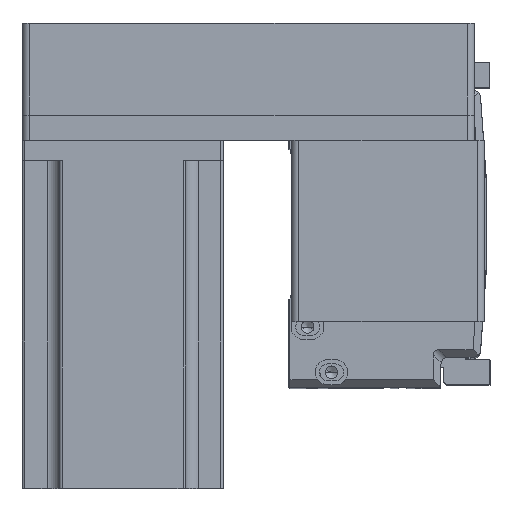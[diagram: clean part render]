
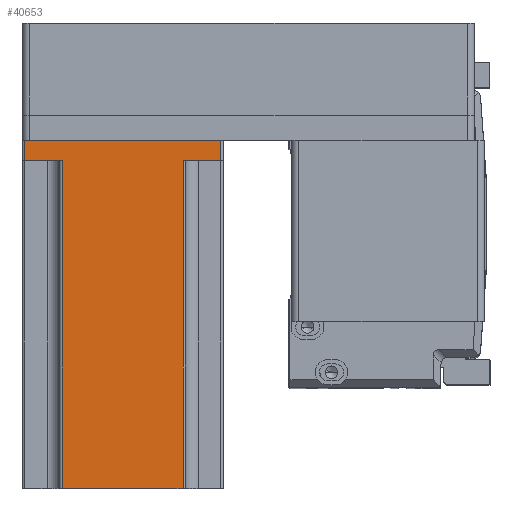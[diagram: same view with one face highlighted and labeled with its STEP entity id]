
A CAD part, top view. The second image highlights one B-rep face of the part: STEP entity #40653.
In plain terms, the highlighted planar face has unit normal (0, 0, 1) as drawn and (0, -1, 0) by its records, which use the part's own axes.
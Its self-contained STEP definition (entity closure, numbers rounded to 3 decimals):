
#160 = DIRECTION ( 'NONE',  ( 1., 0., 0. ) ) ;
#379 = VECTOR ( 'NONE', #24826, 1000. ) ;
#2073 = CARTESIAN_POINT ( 'NONE',  ( -24., -40., 138.3 ) ) ;
#3952 = VERTEX_POINT ( 'NONE', #16265 ) ;
#4171 = VERTEX_POINT ( 'NONE', #17117 ) ;
#4421 = VECTOR ( 'NONE', #17636, 1000. ) ;
#4806 = EDGE_CURVE ( 'NONE', #4171, #3952, #26280, .T. ) ;
#5345 = ORIENTED_EDGE ( 'NONE', *, *, #4806, .T. ) ;
#5780 = VECTOR ( 'NONE', #20825, 1000. ) ;
#5869 = LINE ( 'NONE', #14008, #29828 ) ;
#7692 = CARTESIAN_POINT ( 'NONE',  ( 25., -40., 8. ) ) ;
#9034 = EDGE_CURVE ( 'NONE', #29217, #26596, #29969, .T. ) ;
#10372 = LINE ( 'NONE', #32222, #11392 ) ;
#11054 = CARTESIAN_POINT ( 'NONE',  ( 40., -40., 138.3 ) ) ;
#11392 = VECTOR ( 'NONE', #12690, 1000. ) ;
#11783 = DIRECTION ( 'NONE',  ( 0., 0., 1. ) ) ;
#11979 = DIRECTION ( 'NONE',  ( 0., 1., 0. ) ) ;
#12405 = ORIENTED_EDGE ( 'NONE', *, *, #29779, .T. ) ;
#12619 = VECTOR ( 'NONE', #160, 1000. ) ;
#12690 = DIRECTION ( 'NONE',  ( 1., 0., 0. ) ) ;
#12972 = FACE_OUTER_BOUND ( 'NONE', #39482, .T. ) ;
#13721 = ORIENTED_EDGE ( 'NONE', *, *, #30104, .T. ) ;
#14008 = CARTESIAN_POINT ( 'NONE',  ( 24., -40., 138.3 ) ) ;
#14156 = DIRECTION ( 'NONE',  ( 0., 0., 1. ) ) ;
#14608 = ORIENTED_EDGE ( 'NONE', *, *, #40478, .T. ) ;
#16265 = CARTESIAN_POINT ( 'NONE',  ( -24., -40., 8. ) ) ;
#16519 = EDGE_CURVE ( 'NONE', #29217, #3952, #21348, .T. ) ;
#16557 = ORIENTED_EDGE ( 'NONE', *, *, #16519, .F. ) ;
#17117 = CARTESIAN_POINT ( 'NONE',  ( -24., -40., 138.3 ) ) ;
#17636 = DIRECTION ( 'NONE',  ( 1., 0., 0. ) ) ;
#20112 = ORIENTED_EDGE ( 'NONE', *, *, #34497, .F. ) ;
#20751 = LINE ( 'NONE', #11054, #4421 ) ;
#20825 = DIRECTION ( 'NONE',  ( -1., 0., 0. ) ) ;
#21334 = VECTOR ( 'NONE', #33472, 1000. ) ;
#21348 = LINE ( 'NONE', #35809, #12619 ) ;
#22129 = ORIENTED_EDGE ( 'NONE', *, *, #9034, .T. ) ;
#23009 = CARTESIAN_POINT ( 'NONE',  ( -39., -40., 8. ) ) ;
#24826 = DIRECTION ( 'NONE',  ( 0., 0., -1. ) ) ;
#24876 = CARTESIAN_POINT ( 'NONE',  ( 39., -40., 8. ) ) ;
#25451 = VERTEX_POINT ( 'NONE', #24876 ) ;
#25635 = CARTESIAN_POINT ( 'NONE',  ( 24., -40., 138.3 ) ) ;
#26280 = LINE ( 'NONE', #2073, #379 ) ;
#26596 = VERTEX_POINT ( 'NONE', #38290 ) ;
#27632 = CARTESIAN_POINT ( 'NONE',  ( 39., -40., 0. ) ) ;
#29217 = VERTEX_POINT ( 'NONE', #23009 ) ;
#29779 = EDGE_CURVE ( 'NONE', #26596, #34071, #10372, .T. ) ;
#29828 = VECTOR ( 'NONE', #14156, 1000. ) ;
#29969 = LINE ( 'NONE', #39902, #21334 ) ;
#30104 = EDGE_CURVE ( 'NONE', #25451, #32219, #39425, .T. ) ;
#30388 = CARTESIAN_POINT ( 'NONE',  ( 24., -40., 8. ) ) ;
#31516 = CARTESIAN_POINT ( 'NONE',  ( 40., -40., 138.3 ) ) ;
#32219 = VERTEX_POINT ( 'NONE', #30388 ) ;
#32222 = CARTESIAN_POINT ( 'NONE',  ( 40., -40., 0. ) ) ;
#32555 = VERTEX_POINT ( 'NONE', #25635 ) ;
#32728 = LINE ( 'NONE', #34573, #39357 ) ;
#33472 = DIRECTION ( 'NONE',  ( 0., 0., -1. ) ) ;
#34071 = VERTEX_POINT ( 'NONE', #27632 ) ;
#34497 = EDGE_CURVE ( 'NONE', #4171, #32555, #20751, .T. ) ;
#34573 = CARTESIAN_POINT ( 'NONE',  ( 39., -40., 138.3 ) ) ;
#34772 = DIRECTION ( 'NONE',  ( -1., 0., 0. ) ) ;
#35809 = CARTESIAN_POINT ( 'NONE',  ( -25., -40., 8. ) ) ;
#37917 = PLANE ( 'NONE',  #38087 ) ;
#38087 = AXIS2_PLACEMENT_3D ( 'NONE', #31516, #11979, #34772 ) ;
#38290 = CARTESIAN_POINT ( 'NONE',  ( -39., -40., 0. ) ) ;
#39357 = VECTOR ( 'NONE', #11783, 1000. ) ;
#39425 = LINE ( 'NONE', #7692, #5780 ) ;
#39482 = EDGE_LOOP ( 'NONE', ( #20112, #5345, #16557, #22129, #12405, #40616, #13721, #14608 ) ) ;
#39585 = EDGE_CURVE ( 'NONE', #34071, #25451, #32728, .T. ) ;
#39902 = CARTESIAN_POINT ( 'NONE',  ( -39., -40., 138.3 ) ) ;
#40478 = EDGE_CURVE ( 'NONE', #32219, #32555, #5869, .T. ) ;
#40616 = ORIENTED_EDGE ( 'NONE', *, *, #39585, .T. ) ;
#40653 = ADVANCED_FACE ( 'NONE', ( #12972 ), #37917, .F. ) ;
